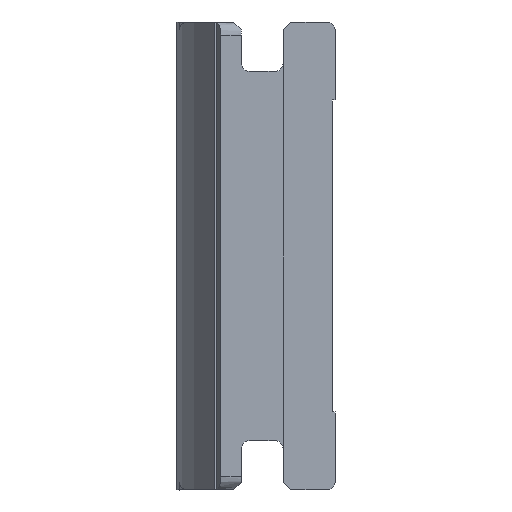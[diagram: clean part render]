
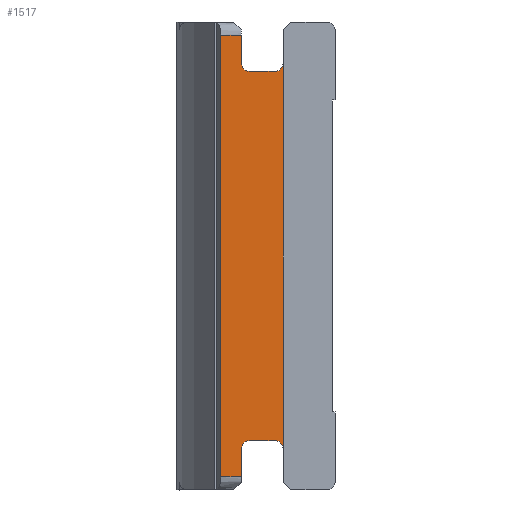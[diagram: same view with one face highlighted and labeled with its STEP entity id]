
A CAD part, left-side view. The second image highlights one B-rep face of the part: STEP entity #1517.
In plain terms, the highlighted planar face has unit normal (-1, 0, 0).
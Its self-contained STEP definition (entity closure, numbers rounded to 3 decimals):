
#77 = ORIENTED_EDGE ( 'NONE', *, *, #1187, .F. ) ;
#80 = VERTEX_POINT ( 'NONE', #1654 ) ;
#81 = PLANE ( 'NONE',  #994 ) ;
#86 = VECTOR ( 'NONE', #251, 1000. ) ;
#89 = FACE_OUTER_BOUND ( 'NONE', #603, .T. ) ;
#96 = ORIENTED_EDGE ( 'NONE', *, *, #436, .F. ) ;
#106 = LINE ( 'NONE', #1827, #441 ) ;
#141 = CARTESIAN_POINT ( 'NONE',  ( 10., 3.2, -7.4 ) ) ;
#182 = ORIENTED_EDGE ( 'NONE', *, *, #764, .T. ) ;
#186 = DIRECTION ( 'NONE',  ( 0., -1., 0. ) ) ;
#194 = EDGE_CURVE ( 'NONE', #396, #1301, #195, .T. ) ;
#195 = CIRCLE ( 'NONE', #1447, 0.3 ) ;
#215 = ORIENTED_EDGE ( 'NONE', *, *, #1274, .F. ) ;
#222 = EDGE_CURVE ( 'NONE', #80, #1262, #106, .T. ) ;
#251 = DIRECTION ( 'NONE',  ( 0., 0., -1. ) ) ;
#283 = LINE ( 'NONE', #1584, #1401 ) ;
#313 = DIRECTION ( 'NONE',  ( 0., 0., -1. ) ) ;
#323 = CARTESIAN_POINT ( 'NONE',  ( 10., 3.2, 7.1 ) ) ;
#336 = VERTEX_POINT ( 'NONE', #413 ) ;
#337 = CARTESIAN_POINT ( 'NONE',  ( 10., 3.5, 8.5 ) ) ;
#353 = VERTEX_POINT ( 'NONE', #733 ) ;
#364 = CARTESIAN_POINT ( 'NONE',  ( 10., 3.2, 7.1 ) ) ;
#396 = VERTEX_POINT ( 'NONE', #1048 ) ;
#402 = CARTESIAN_POINT ( 'NONE',  ( 10., 4.3, 8.5 ) ) ;
#413 = CARTESIAN_POINT ( 'NONE',  ( 10., 4.3, -8.5 ) ) ;
#436 = EDGE_CURVE ( 'NONE', #1592, #396, #1620, .T. ) ;
#441 = VECTOR ( 'NONE', #1272, 1000. ) ;
#443 = CARTESIAN_POINT ( 'NONE',  ( 10., 3.5, -8.5 ) ) ;
#482 = VECTOR ( 'NONE', #1627, 1000. ) ;
#483 = VERTEX_POINT ( 'NONE', #740 ) ;
#513 = DIRECTION ( 'NONE',  ( 0., 0., -1. ) ) ;
#539 = CARTESIAN_POINT ( 'NONE',  ( 10., 4.3, -29.536 ) ) ;
#552 = CARTESIAN_POINT ( 'NONE',  ( 10., 3.2, 7.4 ) ) ;
#586 = CARTESIAN_POINT ( 'NONE',  ( 10., 1.9, 7.4 ) ) ;
#596 = ORIENTED_EDGE ( 'NONE', *, *, #684, .F. ) ;
#600 = EDGE_CURVE ( 'NONE', #1410, #696, #983, .T. ) ;
#603 = EDGE_LOOP ( 'NONE', ( #1433, #1172, #1124, #182, #1236, #1345, #596, #1858, #215, #1733, #96, #77 ) ) ;
#622 = CARTESIAN_POINT ( 'NONE',  ( 10., 3.2, -7.1 ) ) ;
#657 = VECTOR ( 'NONE', #313, 1000. ) ;
#676 = DIRECTION ( 'NONE',  ( 0., 0., -1. ) ) ;
#684 = EDGE_CURVE ( 'NONE', #881, #835, #283, .T. ) ;
#696 = VERTEX_POINT ( 'NONE', #402 ) ;
#708 = DIRECTION ( 'NONE',  ( 0., 1., 0. ) ) ;
#729 = DIRECTION ( 'NONE',  ( -1., 0., 0. ) ) ;
#733 = CARTESIAN_POINT ( 'NONE',  ( 10., 1.9, -7.4 ) ) ;
#739 = LINE ( 'NONE', #884, #482 ) ;
#740 = CARTESIAN_POINT ( 'NONE',  ( 10., 3.5, 7.4 ) ) ;
#745 = CARTESIAN_POINT ( 'NONE',  ( 10., 1.9, -29.536 ) ) ;
#757 = VECTOR ( 'NONE', #186, 1000. ) ;
#764 = EDGE_CURVE ( 'NONE', #336, #1262, #739, .T. ) ;
#778 = DIRECTION ( 'NONE',  ( -1., 0., 0. ) ) ;
#833 = CARTESIAN_POINT ( 'NONE',  ( 10., 1.9, -29.536 ) ) ;
#835 = VERTEX_POINT ( 'NONE', #622 ) ;
#881 = VERTEX_POINT ( 'NONE', #1785 ) ;
#884 = CARTESIAN_POINT ( 'NONE',  ( 10., 1.9, -8.5 ) ) ;
#929 = EDGE_CURVE ( 'NONE', #353, #881, #1664, .T. ) ;
#955 = LINE ( 'NONE', #1398, #86 ) ;
#976 = CARTESIAN_POINT ( 'NONE',  ( 10., 2.2, 7.4 ) ) ;
#982 = DIRECTION ( 'NONE',  ( -1., 0., 0. ) ) ;
#983 = LINE ( 'NONE', #1705, #1462 ) ;
#994 = AXIS2_PLACEMENT_3D ( 'NONE', #833, #1694, #676 ) ;
#1027 = DIRECTION ( 'NONE',  ( 0., 0., -1. ) ) ;
#1048 = CARTESIAN_POINT ( 'NONE',  ( 10., 2.2, 7.1 ) ) ;
#1060 = AXIS2_PLACEMENT_3D ( 'NONE', #552, #982, #1140 ) ;
#1091 = AXIS2_PLACEMENT_3D ( 'NONE', #141, #729, #1027 ) ;
#1124 = ORIENTED_EDGE ( 'NONE', *, *, #1632, .F. ) ;
#1128 = AXIS2_PLACEMENT_3D ( 'NONE', #1514, #778, #1226 ) ;
#1130 = DIRECTION ( 'NONE',  ( 0., 0., 1. ) ) ;
#1140 = DIRECTION ( 'NONE',  ( 0., 0., -1. ) ) ;
#1152 = DIRECTION ( 'NONE',  ( 0., 1., 0. ) ) ;
#1153 = CIRCLE ( 'NONE', #1060, 0.3 ) ;
#1163 = LINE ( 'NONE', #745, #657 ) ;
#1170 = EDGE_CURVE ( 'NONE', #1410, #483, #955, .T. ) ;
#1172 = ORIENTED_EDGE ( 'NONE', *, *, #600, .T. ) ;
#1187 = EDGE_CURVE ( 'NONE', #483, #1592, #1153, .T. ) ;
#1226 = DIRECTION ( 'NONE',  ( 0., 0., -1. ) ) ;
#1236 = ORIENTED_EDGE ( 'NONE', *, *, #222, .F. ) ;
#1262 = VERTEX_POINT ( 'NONE', #443 ) ;
#1263 = DIRECTION ( 'NONE',  ( -1., 0., 0. ) ) ;
#1272 = DIRECTION ( 'NONE',  ( 0., 0., -1. ) ) ;
#1274 = EDGE_CURVE ( 'NONE', #1301, #353, #1163, .T. ) ;
#1301 = VERTEX_POINT ( 'NONE', #586 ) ;
#1304 = VECTOR ( 'NONE', #1130, 1000. ) ;
#1341 = EDGE_CURVE ( 'NONE', #835, #80, #1456, .T. ) ;
#1345 = ORIENTED_EDGE ( 'NONE', *, *, #1341, .F. ) ;
#1398 = CARTESIAN_POINT ( 'NONE',  ( 10., 3.5, 8.7 ) ) ;
#1401 = VECTOR ( 'NONE', #708, 1000. ) ;
#1410 = VERTEX_POINT ( 'NONE', #337 ) ;
#1433 = ORIENTED_EDGE ( 'NONE', *, *, #1170, .F. ) ;
#1447 = AXIS2_PLACEMENT_3D ( 'NONE', #976, #1263, #513 ) ;
#1456 = CIRCLE ( 'NONE', #1091, 0.3 ) ;
#1462 = VECTOR ( 'NONE', #1152, 1000. ) ;
#1514 = CARTESIAN_POINT ( 'NONE',  ( 10., 2.2, -7.4 ) ) ;
#1517 = ADVANCED_FACE ( 'NONE', ( #89 ), #81, .F. ) ;
#1584 = CARTESIAN_POINT ( 'NONE',  ( 10., 3.2, -7.1 ) ) ;
#1592 = VERTEX_POINT ( 'NONE', #364 ) ;
#1620 = LINE ( 'NONE', #323, #757 ) ;
#1627 = DIRECTION ( 'NONE',  ( 0., -1., 0. ) ) ;
#1632 = EDGE_CURVE ( 'NONE', #336, #696, #1839, .T. ) ;
#1654 = CARTESIAN_POINT ( 'NONE',  ( 10., 3.5, -7.4 ) ) ;
#1664 = CIRCLE ( 'NONE', #1128, 0.3 ) ;
#1694 = DIRECTION ( 'NONE',  ( 1., 0., 0. ) ) ;
#1705 = CARTESIAN_POINT ( 'NONE',  ( 10., 1.9, 8.5 ) ) ;
#1733 = ORIENTED_EDGE ( 'NONE', *, *, #194, .F. ) ;
#1785 = CARTESIAN_POINT ( 'NONE',  ( 10., 2.2, -7.1 ) ) ;
#1827 = CARTESIAN_POINT ( 'NONE',  ( 10., 3.5, -8.7 ) ) ;
#1839 = LINE ( 'NONE', #539, #1304 ) ;
#1858 = ORIENTED_EDGE ( 'NONE', *, *, #929, .F. ) ;
